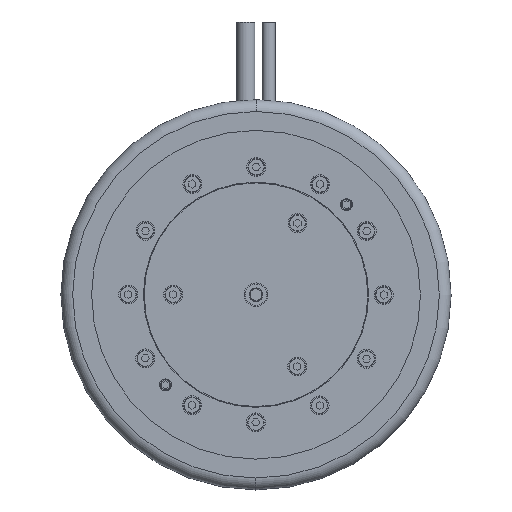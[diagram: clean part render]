
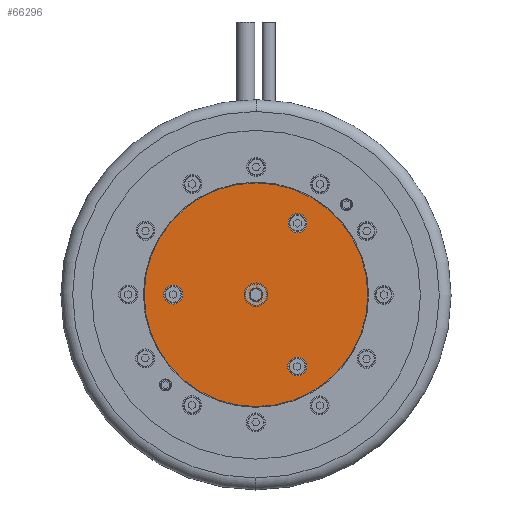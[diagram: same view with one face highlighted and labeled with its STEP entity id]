
A CAD part, top view. The second image highlights one B-rep face of the part: STEP entity #66296.
In plain terms, the highlighted planar face has unit normal (0, 0, 1).
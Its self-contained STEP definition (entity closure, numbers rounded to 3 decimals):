
#574 = CIRCLE ( 'NONE', #38947, 4. ) ;
#2095 = DIRECTION ( 'NONE',  ( 0.002, 1., 0. ) ) ;
#3800 = CARTESIAN_POINT ( 'NONE',  ( 0., 0., 107.5 ) ) ;
#5461 = AXIS2_PLACEMENT_3D ( 'NONE', #57926, #24288, #84912 ) ;
#5981 = DIRECTION ( 'NONE',  ( -0.865, 0.502, 0. ) ) ;
#6057 = FACE_BOUND ( 'NONE', #26485, .T. ) ;
#7281 = CARTESIAN_POINT ( 'NONE',  ( 14.093, 32.286, 107.5 ) ) ;
#7981 = ORIENTED_EDGE ( 'NONE', *, *, #79730, .F. ) ;
#8371 = DIRECTION ( 'NONE',  ( 0., 0., 1. ) ) ;
#8610 = CARTESIAN_POINT ( 'NONE',  ( 20.914, -28.348, 107.5 ) ) ;
#10355 = EDGE_CURVE ( 'NONE', #83602, #24801, #59135, .T. ) ;
#10449 = CARTESIAN_POINT ( 'NONE',  ( 2.163, -1.254, 107.5 ) ) ;
#12941 = VERTEX_POINT ( 'NONE', #50572 ) ;
#13120 = DIRECTION ( 'NONE',  ( 0.865, -0.502, 0. ) ) ;
#14704 = ORIENTED_EDGE ( 'NONE', *, *, #71236, .F. ) ;
#15651 = VERTEX_POINT ( 'NONE', #43343 ) ;
#16134 = CIRCLE ( 'NONE', #65777, 4. ) ;
#16264 = EDGE_CURVE ( 'NONE', #30230, #54394, #87214, .T. ) ;
#17002 = EDGE_LOOP ( 'NONE', ( #81973, #80886 ) ) ;
#18821 = ORIENTED_EDGE ( 'NONE', *, *, #64652, .F. ) ;
#18855 = AXIS2_PLACEMENT_3D ( 'NONE', #30094, #82806, #75721 ) ;
#19340 = DIRECTION ( 'NONE',  ( 0., 0., -1. ) ) ;
#20138 = CARTESIAN_POINT ( 'NONE',  ( 0., 0., 107.5 ) ) ;
#21095 = AXIS2_PLACEMENT_3D ( 'NONE', #20138, #68360, #5981 ) ;
#21102 = FACE_BOUND ( 'NONE', #39458, .T. ) ;
#22564 = EDGE_CURVE ( 'NONE', #15651, #71227, #73627, .T. ) ;
#24288 = DIRECTION ( 'NONE',  ( 0., 0., 1. ) ) ;
#24796 = AXIS2_PLACEMENT_3D ( 'NONE', #34364, #19340, #13120 ) ;
#24801 = VERTEX_POINT ( 'NONE', #35423 ) ;
#25375 = CIRCLE ( 'NONE', #21095, 2.5 ) ;
#25737 = VERTEX_POINT ( 'NONE', #57127 ) ;
#25965 = FACE_OUTER_BOUND ( 'NONE', #17002, .T. ) ;
#26485 = EDGE_LOOP ( 'NONE', ( #84115, #7981 ) ) ;
#26836 = FACE_BOUND ( 'NONE', #66135, .T. ) ;
#26965 = CARTESIAN_POINT ( 'NONE',  ( 17.554, 30.28, 107.5 ) ) ;
#30094 = CARTESIAN_POINT ( 'NONE',  ( 17.446, -30.342, 107.5 ) ) ;
#30230 = VERTEX_POINT ( 'NONE', #54646 ) ;
#31799 = DIRECTION ( 'NONE',  ( 0., 0., 1. ) ) ;
#32131 = CARTESIAN_POINT ( 'NONE',  ( 0., 0., 107.5 ) ) ;
#34084 = AXIS2_PLACEMENT_3D ( 'NONE', #32131, #57052, #76550 ) ;
#34364 = CARTESIAN_POINT ( 'NONE',  ( 0., 0., 107.5 ) ) ;
#35087 = CARTESIAN_POINT ( 'NONE',  ( 17.446, -30.342, 107.5 ) ) ;
#35423 = CARTESIAN_POINT ( 'NONE',  ( -2.163, 1.254, 107.5 ) ) ;
#35496 = AXIS2_PLACEMENT_3D ( 'NONE', #36709, #51281, #51709 ) ;
#36073 = EDGE_LOOP ( 'NONE', ( #14704, #87122 ) ) ;
#36709 = CARTESIAN_POINT ( 'NONE',  ( 17.554, 30.28, 107.5 ) ) ;
#36853 = DIRECTION ( 'NONE',  ( -0.867, -0.498, 0. ) ) ;
#38031 = CARTESIAN_POINT ( 'NONE',  ( -35., 0.062, 107.5 ) ) ;
#38947 = AXIS2_PLACEMENT_3D ( 'NONE', #54323, #55220, #2095 ) ;
#38969 = ORIENTED_EDGE ( 'NONE', *, *, #86376, .F. ) ;
#39458 = EDGE_LOOP ( 'NONE', ( #18821, #58033 ) ) ;
#39793 = EDGE_CURVE ( 'NONE', #25737, #45889, #65243, .T. ) ;
#43343 = CARTESIAN_POINT ( 'NONE',  ( 21.014, 28.274, 107.5 ) ) ;
#44065 = DIRECTION ( 'NONE',  ( 0.865, -0.502, 0. ) ) ;
#45453 = AXIS2_PLACEMENT_3D ( 'NONE', #3800, #83472, #44065 ) ;
#45889 = VERTEX_POINT ( 'NONE', #83435 ) ;
#46319 = FACE_BOUND ( 'NONE', #36073, .T. ) ;
#46500 = AXIS2_PLACEMENT_3D ( 'NONE', #26965, #8371, #68573 ) ;
#46759 = CIRCLE ( 'NONE', #34084, 47.3 ) ;
#50572 = CARTESIAN_POINT ( 'NONE',  ( -35.007, -3.938, 107.5 ) ) ;
#51281 = DIRECTION ( 'NONE',  ( 0., 0., 1. ) ) ;
#51709 = DIRECTION ( 'NONE',  ( 0.865, -0.502, 0. ) ) ;
#53391 = PLANE ( 'NONE',  #24796 ) ;
#54323 = CARTESIAN_POINT ( 'NONE',  ( -35., 0.062, 107.5 ) ) ;
#54394 = VERTEX_POINT ( 'NONE', #8610 ) ;
#54646 = CARTESIAN_POINT ( 'NONE',  ( 13.979, -32.336, 107.5 ) ) ;
#54725 = AXIS2_PLACEMENT_3D ( 'NONE', #35087, #82880, #36853 ) ;
#55220 = DIRECTION ( 'NONE',  ( 0., 0., 1. ) ) ;
#55958 = VERTEX_POINT ( 'NONE', #66520 ) ;
#57017 = CIRCLE ( 'NONE', #18855, 4. ) ;
#57052 = DIRECTION ( 'NONE',  ( 0., 0., -1. ) ) ;
#57127 = CARTESIAN_POINT ( 'NONE',  ( 40.921, -23.722, 107.5 ) ) ;
#57926 = CARTESIAN_POINT ( 'NONE',  ( 0., 0., 107.5 ) ) ;
#58033 = ORIENTED_EDGE ( 'NONE', *, *, #16264, .F. ) ;
#58789 = DIRECTION ( 'NONE',  ( -0.002, -1., 0. ) ) ;
#59135 = CIRCLE ( 'NONE', #5461, 2.5 ) ;
#62173 = EDGE_CURVE ( 'NONE', #45889, #25737, #46759, .T. ) ;
#64652 = EDGE_CURVE ( 'NONE', #54394, #30230, #57017, .T. ) ;
#65243 = CIRCLE ( 'NONE', #45453, 47.3 ) ;
#65777 = AXIS2_PLACEMENT_3D ( 'NONE', #38031, #31799, #58789 ) ;
#66135 = EDGE_LOOP ( 'NONE', ( #38969, #72782 ) ) ;
#66296 = ADVANCED_FACE ( 'NONE', ( #6057, #21102, #26836, #46319, #25965 ), #53391, .F. ) ;
#66520 = CARTESIAN_POINT ( 'NONE',  ( -34.993, 4.062, 107.5 ) ) ;
#68360 = DIRECTION ( 'NONE',  ( 0., 0., 1. ) ) ;
#68573 = DIRECTION ( 'NONE',  ( -0.865, 0.502, 0. ) ) ;
#71227 = VERTEX_POINT ( 'NONE', #7281 ) ;
#71236 = EDGE_CURVE ( 'NONE', #24801, #83602, #25375, .T. ) ;
#72782 = ORIENTED_EDGE ( 'NONE', *, *, #22564, .F. ) ;
#73627 = CIRCLE ( 'NONE', #35496, 4. ) ;
#75721 = DIRECTION ( 'NONE',  ( 0.867, 0.498, 0. ) ) ;
#76550 = DIRECTION ( 'NONE',  ( -0.865, 0.502, 0. ) ) ;
#79477 = EDGE_CURVE ( 'NONE', #12941, #55958, #16134, .T. ) ;
#79730 = EDGE_CURVE ( 'NONE', #55958, #12941, #574, .T. ) ;
#80886 = ORIENTED_EDGE ( 'NONE', *, *, #39793, .F. ) ;
#81973 = ORIENTED_EDGE ( 'NONE', *, *, #62173, .F. ) ;
#82806 = DIRECTION ( 'NONE',  ( 0., 0., 1. ) ) ;
#82880 = DIRECTION ( 'NONE',  ( 0., 0., 1. ) ) ;
#83435 = CARTESIAN_POINT ( 'NONE',  ( -40.921, 23.722, 107.5 ) ) ;
#83472 = DIRECTION ( 'NONE',  ( 0., 0., -1. ) ) ;
#83602 = VERTEX_POINT ( 'NONE', #10449 ) ;
#84115 = ORIENTED_EDGE ( 'NONE', *, *, #79477, .F. ) ;
#84912 = DIRECTION ( 'NONE',  ( 0.865, -0.502, 0. ) ) ;
#86118 = CIRCLE ( 'NONE', #46500, 4. ) ;
#86376 = EDGE_CURVE ( 'NONE', #71227, #15651, #86118, .T. ) ;
#87122 = ORIENTED_EDGE ( 'NONE', *, *, #10355, .F. ) ;
#87214 = CIRCLE ( 'NONE', #54725, 4. ) ;
